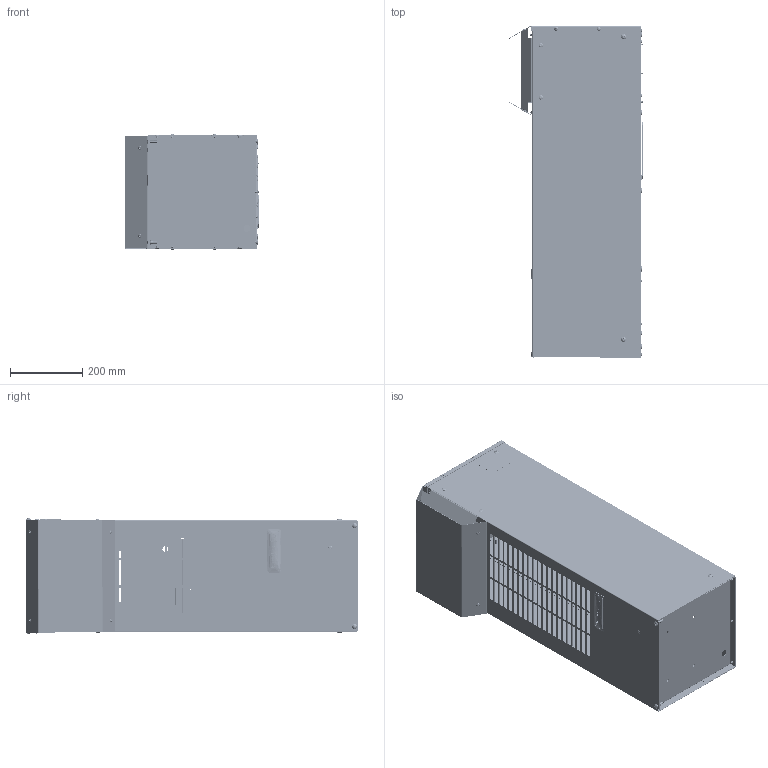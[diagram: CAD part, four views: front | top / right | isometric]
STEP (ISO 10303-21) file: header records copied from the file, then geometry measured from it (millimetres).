
FILE_DESCRIPTION (( 'STEP AP203' ), '1' );
FILE_NAME ('31x1 SL shell.STEP', '2019-10-22T12:10:16', ( '' ), ( '' ), 'SwSTEP 2.0', 'SolidWorks 2018', '' );
FILE_SCHEMA (( 'CONFIG_CONTROL_DESIGN' ));
Length unit declared in the file: millimetre
Products named in the file (29): 820100032_820100032; 015080031_015080031; 820100000_820100000; 30240-032; 31x1 SL shell; 30240-021._802002067; 820140000_Rivet Painted MultiGripRAL7035; 020140018_020140018; 30240-24_802002068; 085110010_085110010; 30240-022; 30240-025_802002069 (316 SS); 885000105_885000105; 30240-015; 820100030_820100030; 085110140_085110140; 30241-013; 820140006_Rivet 5-32; Dome; Std; SS #52; 085110150_085110150; 30240-018_802002066; 30240-010; 80000-012_885000177; US-085110130_085110130; US-820140010_default; 020140010_020140010; 30240-601_316 SS; 085110170; 820140011_default; 020140030_020140030
Assembly tree (111 placements, depth 3):
  31x1 SL shell
    30240-010
    020140010_020140010  x4
    020140030_020140030  x13
    30240-032
    020140018_020140018  x19
    30240-022
    30240-015
    30241-013
    30240-601_316 SS
      30240-018_802002066
      US-820140010_default  x8
      820140011_default  x8
      820100000_820100000  x4
      820140000_Rivet Painted MultiGripRAL7035
      085110010_085110010
      885000105_885000105
      085110140_085110140  x2
      085110150_085110150
      US-085110130_085110130
      085110170
      015080031_015080031
      30240-021._802002067
      30240-24_802002068
      30240-025_802002069 (316 SS)  x2
      020140018_020140018  x12
      820100030_820100030  x6
      820140006_Rivet 5-32; Dome; Std; SS #52  x12
      80000-012_885000177
    820100032_820100032  x2
    820100000_820100000  x2
Bounding box: 370.23 x 918.68 x 320.6 mm (x, y, z)
Volume: 1950316.7 mm3; surface area: 3357713.9 mm2
Topology: 170 solids, 170 shells, 15344 faces, 40739 edges, 26664 vertices
Faces by surface type: plane 8616, bspline 3956, cylinder 1519, cone 679, torus 322, sphere 252
Entity records: 511453 total; most frequent: CARTESIAN_POINT 271239, ORIENTED_EDGE 53834, DIRECTION 37490, EDGE_CURVE 26917, LINE 19484, VECTOR 19484, VERTEX_POINT 17832, EDGE_LOOP 11621
